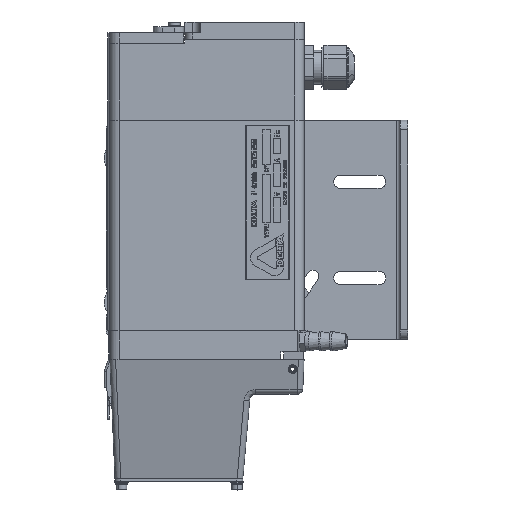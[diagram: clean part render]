
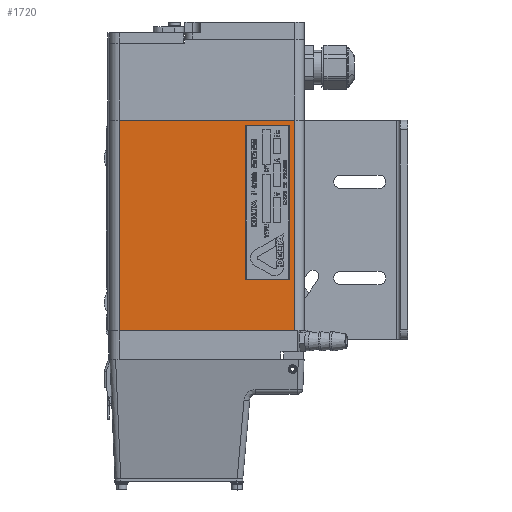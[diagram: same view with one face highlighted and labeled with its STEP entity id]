
A CAD part, left-side view. The second image highlights one B-rep face of the part: STEP entity #1720.
In plain terms, the highlighted planar face has unit normal (-1, 0, 0).
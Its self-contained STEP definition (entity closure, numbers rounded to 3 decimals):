
#1658 = EDGE_CURVE ( 'NONE', #49528, #3797, #37785, .T. ) ;
#1720 = ADVANCED_FACE ( 'NONE', ( #47955, #36236 ), #42395, .F. ) ;
#3611 = EDGE_LOOP ( 'NONE', ( #59281, #41449, #29290, #41899 ) ) ;
#3797 = VERTEX_POINT ( 'NONE', #5736 ) ;
#4575 = LINE ( 'NONE', #26464, #18068 ) ;
#5736 = CARTESIAN_POINT ( 'NONE',  ( 30.63, -51.05, 411.363 ) ) ;
#6280 = DIRECTION ( 'NONE',  ( 0., 0., 1. ) ) ;
#7269 = CARTESIAN_POINT ( 'NONE',  ( 30.63, -48.55, 408.863 ) ) ;
#7443 = ORIENTED_EDGE ( 'NONE', *, *, #1658, .F. ) ;
#9184 = DIRECTION ( 'NONE',  ( 0., -1., 0. ) ) ;
#9768 = EDGE_CURVE ( 'NONE', #39472, #35807, #12490, .T. ) ;
#9866 = LINE ( 'NONE', #7269, #23366 ) ;
#10990 = VECTOR ( 'NONE', #28408, 1000. ) ;
#11518 = VERTEX_POINT ( 'NONE', #48892 ) ;
#11855 = VERTEX_POINT ( 'NONE', #58382 ) ;
#12490 = LINE ( 'NONE', #24453, #49483 ) ;
#14729 = ORIENTED_EDGE ( 'NONE', *, *, #44148, .T. ) ;
#16140 = DIRECTION ( 'NONE',  ( 0., 0., 1. ) ) ;
#16252 = DIRECTION ( 'NONE',  ( 0., 1., 0. ) ) ;
#18068 = VECTOR ( 'NONE', #6280, 1000. ) ;
#19243 = CARTESIAN_POINT ( 'NONE',  ( 30.63, -25.55, 408.863 ) ) ;
#20629 = VECTOR ( 'NONE', #16140, 1000. ) ;
#22950 = AXIS2_PLACEMENT_3D ( 'NONE', #64709, #29777, #16252 ) ;
#23076 = EDGE_CURVE ( 'NONE', #35807, #11855, #34036, .T. ) ;
#23366 = VECTOR ( 'NONE', #37490, 1000. ) ;
#23452 = DIRECTION ( 'NONE',  ( 0., 0., -1. ) ) ;
#24453 = CARTESIAN_POINT ( 'NONE',  ( 30.63, -48.55, 328.363 ) ) ;
#25631 = CARTESIAN_POINT ( 'NONE',  ( 30.63, 45.95, 301.863 ) ) ;
#26107 = CARTESIAN_POINT ( 'NONE',  ( 30.63, -48.55, 408.863 ) ) ;
#26464 = CARTESIAN_POINT ( 'NONE',  ( 30.63, -51.05, 411.363 ) ) ;
#28408 = DIRECTION ( 'NONE',  ( 0., -1., 0. ) ) ;
#29290 = ORIENTED_EDGE ( 'NONE', *, *, #23076, .F. ) ;
#29777 = DIRECTION ( 'NONE',  ( 1., 0., 0. ) ) ;
#30538 = VECTOR ( 'NONE', #60686, 1000. ) ;
#33527 = CARTESIAN_POINT ( 'NONE',  ( 30.63, 39.986, 411.363 ) ) ;
#33547 = CARTESIAN_POINT ( 'NONE',  ( 30.63, -25.55, 408.863 ) ) ;
#33706 = EDGE_CURVE ( 'NONE', #11518, #3797, #4575, .T. ) ;
#34036 = LINE ( 'NONE', #26107, #20629 ) ;
#34387 = CARTESIAN_POINT ( 'NONE',  ( 30.63, 45.95, 411.363 ) ) ;
#35807 = VERTEX_POINT ( 'NONE', #50280 ) ;
#36236 = FACE_OUTER_BOUND ( 'NONE', #56246, .T. ) ;
#37490 = DIRECTION ( 'NONE',  ( 0., 1., 0. ) ) ;
#37785 = LINE ( 'NONE', #34387, #10990 ) ;
#38185 = VERTEX_POINT ( 'NONE', #19243 ) ;
#39472 = VERTEX_POINT ( 'NONE', #50881 ) ;
#41449 = ORIENTED_EDGE ( 'NONE', *, *, #46805, .F. ) ;
#41899 = ORIENTED_EDGE ( 'NONE', *, *, #9768, .F. ) ;
#42395 = PLANE ( 'NONE',  #22950 ) ;
#42643 = CARTESIAN_POINT ( 'NONE',  ( 30.63, 39.986, 411.363 ) ) ;
#44148 = EDGE_CURVE ( 'NONE', #49528, #48535, #62296, .T. ) ;
#46682 = LINE ( 'NONE', #33547, #58409 ) ;
#46805 = EDGE_CURVE ( 'NONE', #11855, #38185, #9866, .T. ) ;
#47414 = VECTOR ( 'NONE', #53613, 1000. ) ;
#47955 = FACE_BOUND ( 'NONE', #3611, .T. ) ;
#48535 = VERTEX_POINT ( 'NONE', #50610 ) ;
#48892 = CARTESIAN_POINT ( 'NONE',  ( 30.63, -51.05, 301.863 ) ) ;
#49483 = VECTOR ( 'NONE', #9184, 1000. ) ;
#49528 = VERTEX_POINT ( 'NONE', #42643 ) ;
#50280 = CARTESIAN_POINT ( 'NONE',  ( 30.63, -48.55, 328.363 ) ) ;
#50610 = CARTESIAN_POINT ( 'NONE',  ( 30.63, 39.986, 301.863 ) ) ;
#50881 = CARTESIAN_POINT ( 'NONE',  ( 30.63, -25.55, 328.363 ) ) ;
#53613 = DIRECTION ( 'NONE',  ( 0., 0., -1. ) ) ;
#54322 = ORIENTED_EDGE ( 'NONE', *, *, #33706, .T. ) ;
#54799 = EDGE_CURVE ( 'NONE', #38185, #39472, #46682, .T. ) ;
#56246 = EDGE_LOOP ( 'NONE', ( #61383, #54322, #7443, #14729 ) ) ;
#57154 = LINE ( 'NONE', #25631, #30538 ) ;
#58382 = CARTESIAN_POINT ( 'NONE',  ( 30.63, -48.55, 408.863 ) ) ;
#58409 = VECTOR ( 'NONE', #23452, 1000. ) ;
#59281 = ORIENTED_EDGE ( 'NONE', *, *, #54799, .F. ) ;
#60589 = EDGE_CURVE ( 'NONE', #48535, #11518, #57154, .T. ) ;
#60686 = DIRECTION ( 'NONE',  ( 0., -1., 0. ) ) ;
#61383 = ORIENTED_EDGE ( 'NONE', *, *, #60589, .T. ) ;
#62296 = LINE ( 'NONE', #33527, #47414 ) ;
#64709 = CARTESIAN_POINT ( 'NONE',  ( 30.63, 45.95, 411.363 ) ) ;
